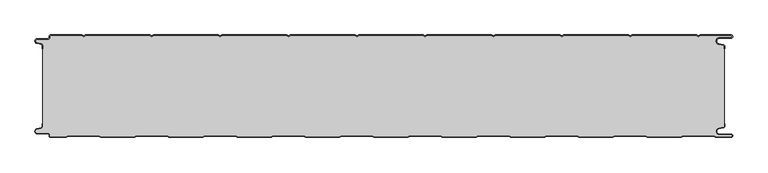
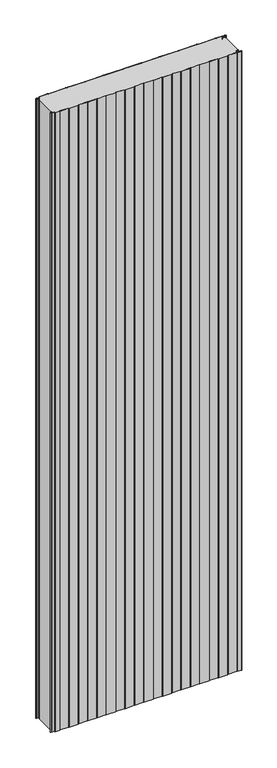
"""IFC4 building model written with IfcOpenShell, lengths in millimetres: plate geometry, PMH_Curtain-PaneL-Standard : ACH_PMH_Stone-wool-Panel_150M."""

import ifcopenshell
import ifcopenshell.guid

model = None  # the IFC model being written
_history = None  # IfcOwnerHistory: only IFC2X3 demands one
_inside = {}  # id of a spatial element -> (the spatial element, [elements in it])
_under = {}  # id of a project, library or spatial element -> (it, [spatial elements below it])
_declared = {}  # id of a project -> (the project, [libraries it declares])
_typed = {}  # id of a type object -> (the type object, [elements of that type])
_made_of = {}  # id of a material, layer set ... -> (it, [elements and type objects made of it])


def new_model(schema):
    """Start an empty IFC model of exactly this schema.

    Asked for "IFC4X3", IfcOpenShell would pick the latest addendum, in which some entities
    have other attributes; the version numbers below select the first issue.
    IFC2X3 requires an IfcOwnerHistory on every rooted entity: one is made here for all.
    """
    global model, _history
    if schema == "IFC4X3":
        model = ifcopenshell.file(schema_version=(4, 3, 0, 0))
    else:
        model = ifcopenshell.file(schema=schema)
    _inside.clear()
    _under.clear()
    _declared.clear()
    _typed.clear()
    _made_of.clear()
    _history = None
    if model.schema == "IFC2X3":
        org = make("IfcOrganization", Name="unknown")
        user = make(
            "IfcPersonAndOrganization",
            ThePerson=make("IfcPerson", FamilyName="unknown"),
            TheOrganization=org,
        )
        app = make(
            "IfcApplication",
            ApplicationDeveloper=org,
            Version="unknown",
            ApplicationFullName="unknown",
            ApplicationIdentifier="unknown",
        )
        _history = make(
            "IfcOwnerHistory",
            OwningUser=user,
            OwningApplication=app,
            ChangeAction="ADDED",
            CreationDate=0,
        )
    return model


def make(cls, **values):
    """One entity of the class cls with the attributes given. An attribute that is None is left unset."""
    return model.create_entity(
        cls, **{name: value for name, value in values.items() if value is not None}
    )


def rooted(cls, **values):
    """An entity with a GlobalId (a new one), such as an element, a storey or a relation."""
    return make(cls, GlobalId=ifcopenshell.guid.new(), OwnerHistory=_history, **values)


def si_unit(unit_type, name, prefix=None):
    """IfcSIUnit, for example si_unit("LENGTHUNIT", "METRE", prefix="MILLI")."""
    return make("IfcSIUnit", UnitType=unit_type, Prefix=prefix, Name=name)


def assignment(units):
    """IfcUnitAssignment: the units of a project."""
    return None if units is None else make("IfcUnitAssignment", Units=units)


def point(xyz):
    """IfcCartesianPoint."""
    return None if xyz is None else make("IfcCartesianPoint", Coordinates=xyz)


def direction(xyz):
    """IfcDirection."""
    return None if xyz is None else make("IfcDirection", DirectionRatios=xyz)


def frame(location, z_axis=None, x_axis=None):
    """IfcAxis2Placement3D, a coordinate frame: its origin and axes. An axis left out is left unset."""
    return make(
        "IfcAxis2Placement3D",
        Location=point(location),
        Axis=direction(z_axis),
        RefDirection=direction(x_axis),
    )


def frame_2d(location, x_axis=None):
    """IfcAxis2Placement2D, a coordinate frame in the plane: its origin and x axis."""
    return make(
        "IfcAxis2Placement2D", Location=point(location), RefDirection=direction(x_axis)
    )


def origin():
    """The frame at (0, 0, 0) with its axes left unset."""
    return frame((0.0, 0.0, 0.0))


def origin_with_axes():
    """The frame at (0, 0, 0) with the z axis (0, 0, 1) and the x axis (1, 0, 0) written out."""
    return frame((0.0, 0.0, 0.0), z_axis=(0.0, 0.0, 1.0), x_axis=(1.0, 0.0, 0.0))


def place(relative_to, where):
    """IfcLocalPlacement: puts the frame where relative to a parent placement (None: the world)."""
    return make(
        "IfcLocalPlacement", PlacementRelTo=relative_to, RelativePlacement=where
    )


def context(
    kind, dimensions, precision=None, world=None, true_north=None, identifier=None
):
    """IfcGeometricRepresentationContext, for example the 3D "Model" context."""
    return make(
        "IfcGeometricRepresentationContext",
        ContextIdentifier=identifier,
        ContextType=kind,
        CoordinateSpaceDimension=dimensions,
        Precision=precision,
        WorldCoordinateSystem=world,
        TrueNorth=true_north,
    )


def project(units=None, contexts=None):
    """IfcProject with its units and contexts."""
    return rooted(
        "IfcProject",
        Name="project",
        RepresentationContexts=contexts,
        UnitsInContext=assignment(units),
    )


def spatial(cls, under=None, at=None, **own):
    """A site, building, storey or space (cls), placed at a placement, below another one or the project."""
    s = rooted(cls, ObjectPlacement=at, **own)
    if under is not None:
        _under.setdefault(under.id(), (under, []))[1].append(s)
    return s


def polyline(points):
    """IfcPolyline through the points."""
    return make("IfcPolyline", Points=[point(p) for p in points])


def circle_curve(where, radius):
    """IfcCircle in the frame where."""
    return make("IfcCircle", Position=where, Radius=radius)


def trimmed(basis, trim1, trim2, sense, master):
    """IfcTrimmedCurve: the piece of a basis curve between two trims."""
    return make(
        "IfcTrimmedCurve",
        BasisCurve=basis,
        Trim1=trim1,
        Trim2=trim2,
        SenseAgreement=sense,
        MasterRepresentation=master,
    )


def segment(curve, same_sense, transition):
    """IfcCompositeCurveSegment."""
    return make(
        "IfcCompositeCurveSegment",
        Transition=transition,
        SameSense=same_sense,
        ParentCurve=curve,
    )


def composite_curve(segments, self_intersect=None):
    """IfcCompositeCurve: segments joined end to end."""
    return make("IfcCompositeCurve", Segments=segments, SelfIntersect=self_intersect)


def outline(outer, holes=None, kind="AREA"):
    """IfcArbitraryClosedProfileDef: a profile drawn as a closed curve; with holes, ...WithVoids."""
    if holes is None:
        return make("IfcArbitraryClosedProfileDef", ProfileType=kind, OuterCurve=outer)
    return make(
        "IfcArbitraryProfileDefWithVoids",
        ProfileType=kind,
        OuterCurve=outer,
        InnerCurves=holes,
    )


def extrude(swept, where, along, depth):
    """IfcExtrudedAreaSolid: the profile swept, set in the frame where, extruded along a direction by depth."""
    return make(
        "IfcExtrudedAreaSolid",
        SweptArea=swept,
        Position=where,
        ExtrudedDirection=direction(along),
        Depth=depth,
    )


def shape(context_of_items, identifier, shape_type, items):
    """IfcShapeRepresentation: the items that make up one representation, for example the "Body"."""
    return make(
        "IfcShapeRepresentation",
        ContextOfItems=context_of_items,
        RepresentationIdentifier=identifier,
        RepresentationType=shape_type,
        Items=items,
    )


def source(mapping_origin, context_of_items, identifier, shape_type, items):
    """IfcRepresentationMap: a shape defined once, which mapped items show again and again."""
    return make(
        "IfcRepresentationMap",
        MappingOrigin=mapping_origin,
        MappedRepresentation=shape(context_of_items, identifier, shape_type, items),
    )


def transform(
    local_origin,
    x_axis=None,
    y_axis=None,
    z_axis=None,
    scale=None,
    scale2=None,
    scale3=None,
    uniform=True,
):
    """IfcCartesianTransformationOperator3D, or its non-uniform kind. x_axis, y_axis, z_axis: its Axis1, 2, 3."""
    if uniform:
        return make(
            "IfcCartesianTransformationOperator3D",
            Axis1=direction(x_axis),
            Axis2=direction(y_axis),
            LocalOrigin=point(local_origin),
            Scale=scale,
            Axis3=direction(z_axis),
        )
    return make(
        "IfcCartesianTransformationOperator3DnonUniform",
        Axis1=direction(x_axis),
        Axis2=direction(y_axis),
        LocalOrigin=point(local_origin),
        Scale=scale,
        Axis3=direction(z_axis),
        Scale2=scale2,
        Scale3=scale3,
    )


def mapped(mapping_source, mapping_target):
    """IfcMappedItem: shows the shape of a source again, moved by a transform."""
    return make(
        "IfcMappedItem", MappingSource=mapping_source, MappingTarget=mapping_target
    )


def made_of(thing, what):
    """Note that an element or type object is made of a material, layer set ...; save() writes the relation."""
    if what is not None:
        _made_of.setdefault(what.id(), (what, []))[1].append(thing)
    return thing


def element(
    cls,
    number,
    at=None,
    inside=None,
    cuts=None,
    type_object=None,
    material=None,
    context=None,
    identifier="Body",
    shape_type=None,
    held_by="IfcProductDefinitionShape",
    body=None,
    shapes=None,
    **own,
):
    """One element of the class cls, such as IfcWall. Its Tag is "e" and its number.

    at: its placement. inside: the storey or other place that contains it. cuts: it is an
    opening in that element (IfcRelVoidsElement). A single representation is given by context,
    identifier, shape_type and body (its items); several are given by shapes. held_by: the class
    of the entity that holds the representations. save() writes the other relations.
    """
    e = rooted(cls, Tag="e%d" % number, ObjectPlacement=at, **own)
    if body is not None:
        shapes = [shape(context, identifier, shape_type, body)]
    if shapes is not None:
        e.Representation = make(held_by, Representations=shapes)
    if inside is not None:
        _inside.setdefault(inside.id(), (inside, []))[1].append(e)
    if cuts is not None:
        rooted(
            "IfcRelVoidsElement", RelatingBuildingElement=cuts, RelatedOpeningElement=e
        )
    if type_object is not None:
        _typed.setdefault(type_object.id(), (type_object, []))[1].append(e)
    return made_of(e, material)


def aggregate(whole, parts):
    """IfcRelAggregates: a whole, such as a stair, and the parts it consists of."""
    return rooted("IfcRelAggregates", RelatingObject=whole, RelatedObjects=parts)


def save(model, path):
    """Write the relations noted so far, then the file.

    IfcRelAggregates (storeys below a building ...), IfcRelContainedInSpatialStructure (elements
    in a storey), IfcRelDefinesByType, IfcRelAssociatesMaterial and IfcRelDeclares: one each for
    every whole, place, type object, material and project.
    """
    for whole, parts in _under.values():
        aggregate(whole, parts)
    for where, things in _inside.values():
        rooted(
            "IfcRelContainedInSpatialStructure",
            RelatedElements=things,
            RelatingStructure=where,
        )
    for kind, things in _typed.values():
        rooted("IfcRelDefinesByType", RelatedObjects=things, RelatingType=kind)
    for what, things in _made_of.values():
        rooted("IfcRelAssociatesMaterial", RelatedObjects=things, RelatingMaterial=what)
    for by, libraries in _declared.values():
        rooted("IfcRelDeclares", RelatingContext=by, RelatedDefinitions=libraries)
    model.write(path)


def plate_48b56e83(model_context):
    return source(origin(), model_context, "Body", "SweptSolid", [
        extrude(outline(composite_curve([segment(trimmed(circle_curve(frame_2d((-502.0, -15.878557)), 2.0), [point((-500.0, -15.878557))], [point((-501.5500978, -13.9298169))], True, "CARTESIAN"), True, "CONTINUOUS"), segment(polyline([(-501.5500978, -13.9298169), (-507.7098239, -12.507732)]), True, "CONTINUOUS"), segment(trimmed(circle_curve(frame_2d((-506.9, -9.0)), 3.6), [point((-507.7098239, -12.507732))], [point((-506.9, -5.4))], False, "CARTESIAN"), True, "CONTINUOUS"), segment(polyline([(-506.9, -5.4), (-491.4, -5.4)]), True, "CONTINUOUS"), segment(trimmed(circle_curve(frame_2d((-491.4, -3.4)), 2.0), [point((-491.4, -5.4))], [point((-489.4, -3.4))], True, "CARTESIAN"), True, "CONTINUOUS"), segment(polyline([(-489.4, -3.4), (-489.4, -2.0)]), True, "CONTINUOUS"), segment(trimmed(circle_curve(frame_2d((-487.4, -2.0)), 2.0), [point((-489.4, -2.0))], [point((-487.4, 0.0))], False, "CARTESIAN"), True, "CONTINUOUS"), segment(polyline([(-487.4, 0.0), (-442.0999995, 0.0), (-439.4, -1.5588455), (-436.7000005, 0.0), (-342.0999995, 0.0), (-339.4, -1.5588455), (-336.7000005, 0.0), (-242.0999995, 0.0), (-239.4, -1.5588455), (-236.7000005, 0.0), (-142.0999995, 0.0), (-139.4, -1.5588455), (-136.7000005, 0.0), (-42.0999995, 0.0), (-39.4, -1.5588455), (-36.7000005, 0.0), (57.9000005, 0.0), (60.6, -1.5588455), (63.2999995, 0.0), (157.9000005, 0.0), (160.6, -1.5588455), (163.2999995, 0.0), (257.9000005, 0.0), (260.6, -1.5588455), (263.2999995, 0.0), (357.9000005, 0.0), (360.6, -1.5588455), (363.2999995, 0.0), (457.9000005, 0.0), (460.6, -1.5588455), (463.2999995, 0.0), (508.1, 0.0)]), True, "CONTINUOUS"), segment(trimmed(circle_curve(frame_2d((508.1, -2.5)), 2.5), [point((508.1, 0.0))], [point((508.1, -5.0))], False, "CARTESIAN"), True, "CONTINUOUS"), segment(polyline([(508.1, -5.0), (491.1, -5.0)]), True, "CONTINUOUS"), segment(trimmed(circle_curve(frame_2d((491.1, -9.0)), 4.0), [point((491.1, -5.0))], [point((490.405407, -12.939231))], True, "CARTESIAN"), True, "CONTINUOUS"), segment(polyline([(490.405407, -12.939231), (496.8514855, -14.0758491)]), True, "CONTINUOUS"), segment(trimmed(circle_curve(frame_2d((496.4, -16.6363492)), 2.6), [point((496.8514855, -14.0758491))], [point((499.0, -16.6363492))], False, "CARTESIAN"), True, "CONTINUOUS"), segment(polyline([(499.0, -16.6363492), (499.0, -20.0), (498.2, -20.0), (498.2, -16.6363492)]), True, "CONTINUOUS"), segment(trimmed(circle_curve(frame_2d((496.4, -16.6363492)), 1.8), [point((498.2, -16.6363492))], [point((496.7125669, -14.8636953))], True, "CARTESIAN"), True, "CONTINUOUS"), segment(polyline([(496.7125669, -14.8636953), (490.2664884, -13.7270772)]), True, "CONTINUOUS"), segment(trimmed(circle_curve(frame_2d((491.1, -9.0)), 4.8), [point((490.2664884, -13.7270772))], [point((491.1, -4.2))], False, "CARTESIAN"), True, "CONTINUOUS"), segment(polyline([(491.1, -4.2), (508.1, -4.2)]), True, "CONTINUOUS"), segment(trimmed(circle_curve(frame_2d((508.1, -2.5)), 1.7), [point((508.1, -4.2))], [point((508.1, -0.8))], True, "CARTESIAN"), True, "CONTINUOUS"), segment(polyline([(508.1, -0.8), (463.5143588, -0.8), (460.6, -2.482606), (457.6856412, -0.8), (363.5143588, -0.8), (360.6, -2.482606), (357.6856412, -0.8), (263.5143588, -0.8), (260.6, -2.482606), (257.6856412, -0.8), (163.5143588, -0.8), (160.6, -2.482606), (157.6856412, -0.8), (63.5143588, -0.8), (60.6, -2.482606), (57.6856412, -0.8), (-36.4856412, -0.8), (-39.4, -2.482606), (-42.3143588, -0.8), (-136.4856412, -0.8), (-139.4, -2.482606), (-142.3143588, -0.8), (-236.4856412, -0.8), (-239.4, -2.482606), (-242.3143588, -0.8), (-336.4856412, -0.8), (-339.4, -2.482606), (-342.3143588, -0.8), (-436.4856412, -0.8), (-439.4, -2.482606), (-442.3143588, -0.8), (-487.4, -0.8)]), True, "CONTINUOUS"), segment(trimmed(circle_curve(frame_2d((-487.4, -2.0)), 1.2), [point((-487.4, -0.8))], [point((-488.6, -2.0))], True, "CARTESIAN"), True, "CONTINUOUS"), segment(polyline([(-488.6, -2.0), (-488.6, -3.4)]), True, "CONTINUOUS"), segment(trimmed(circle_curve(frame_2d((-491.4, -3.4)), 2.8), [point((-488.6, -3.4))], [point((-491.4, -6.2))], False, "CARTESIAN"), True, "CONTINUOUS"), segment(polyline([(-491.4, -6.2), (-506.9, -6.2)]), True, "CONTINUOUS"), segment(trimmed(circle_curve(frame_2d((-506.9, -9.0)), 2.8), [point((-506.9, -6.2))], [point((-507.529863, -11.7282362))], True, "CARTESIAN"), True, "CONTINUOUS"), segment(polyline([(-507.529863, -11.7282362), (-501.370137, -13.150321)]), True, "CONTINUOUS"), segment(trimmed(circle_curve(frame_2d((-502.0, -15.878557)), 2.8), [point((-501.370137, -13.150321))], [point((-499.2, -15.878557))], False, "CARTESIAN"), True, "CONTINUOUS"), segment(polyline([(-499.2, -15.878557), (-499.2, -20.0), (-500.0, -20.0), (-500.0, -15.878557)]), True, "CONTINUOUS")], self_intersect=False)), origin_with_axes(), (0.0, 0.0, 1.0), 3500.0),
        extrude(outline(composite_curve([segment(polyline([(-499.2, -134.121443), (-499.2, -15.8785573)]), True, "CONTINUOUS"), segment(trimmed(circle_curve(frame_2d((-502.0, -15.8785573)), 2.8), [point((-499.2, -15.8785573))], [point((-501.370137, -13.1503212))], True, "CARTESIAN"), True, "CONTINUOUS"), segment(polyline([(-501.370137, -13.1503212), (-507.5298631, -11.7282362)]), True, "CONTINUOUS"), segment(trimmed(circle_curve(frame_2d((-506.9, -9.0)), 2.8), [point((-507.5298631, -11.7282362))], [point((-506.9, -6.2))], False, "CARTESIAN"), True, "CONTINUOUS"), segment(polyline([(-506.9, -6.2), (-491.4000001, -6.2)]), True, "CONTINUOUS"), segment(trimmed(circle_curve(frame_2d((-491.4000001, -3.4)), 2.8), [point((-491.4000001, -6.2))], [point((-488.6000001, -3.4))], True, "CARTESIAN"), True, "CONTINUOUS"), segment(polyline([(-488.6000001, -3.4), (-488.6000001, -2.0)]), True, "CONTINUOUS"), segment(trimmed(circle_curve(frame_2d((-487.4000001, -2.0)), 1.2), [point((-488.6000001, -2.0))], [point((-487.4000001, -0.8))], False, "CARTESIAN"), True, "CONTINUOUS"), segment(polyline([(-487.4000001, -0.8), (-442.3143589, -0.8), (-439.4000001, -2.482606), (-436.4856412, -0.8), (-342.3143589, -0.8), (-339.4000001, -2.482606), (-336.4856412, -0.8), (-242.3143589, -0.8), (-239.4000001, -2.482606), (-236.4856412, -0.8), (-142.3143589, -0.8), (-139.4000001, -2.482606), (-136.4856412, -0.8), (-42.3143589, -0.8), (-39.4000001, -2.482606), (-36.4856412, -0.8), (57.6856411, -0.8), (60.5999999, -2.482606), (63.5143588, -0.8), (157.6856411, -0.8), (160.5999999, -2.482606), (163.5143588, -0.8), (257.6856411, -0.8), (260.5999999, -2.482606), (263.5143588, -0.8), (357.6856411, -0.8), (360.5999999, -2.482606), (363.5143588, -0.8), (457.6856411, -0.8), (460.5999999, -2.482606), (463.5143587, -0.8), (508.1, -0.8)]), True, "CONTINUOUS"), segment(trimmed(circle_curve(frame_2d((508.1, -2.5)), 1.7), [point((508.1, -0.8))], [point((508.1, -4.2))], False, "CARTESIAN"), True, "CONTINUOUS"), segment(polyline([(508.1, -4.2), (491.1, -4.2)]), True, "CONTINUOUS"), segment(trimmed(circle_curve(frame_2d((491.1, -9.0)), 4.8), [point((491.1, -4.2))], [point((490.2664883, -13.7270771))], True, "CARTESIAN"), True, "CONTINUOUS"), segment(polyline([(490.2664883, -13.7270771), (496.7125668, -14.8636953)]), True, "CONTINUOUS"), segment(trimmed(circle_curve(frame_2d((496.4, -16.6363492)), 1.8), [point((496.7125668, -14.8636953))], [point((498.2, -16.6363492))], False, "CARTESIAN"), True, "CONTINUOUS"), segment(polyline([(498.2, -16.6363492), (498.2, -133.363652)]), True, "CONTINUOUS"), segment(trimmed(circle_curve(frame_2d((496.4, -133.363652)), 1.8), [point((498.2, -133.363652))], [point((496.7125666, -135.1363059))], False, "CARTESIAN"), True, "CONTINUOUS"), segment(polyline([(496.7125666, -135.1363059), (490.266489, -136.272923)]), True, "CONTINUOUS"), segment(trimmed(circle_curve(frame_2d((491.1, -141.0000002)), 4.7999999), [point((490.266489, -136.272923))], [point((491.1, -145.8000001))], True, "CARTESIAN"), True, "CONTINUOUS"), segment(polyline([(491.1, -145.8000001), (508.1, -145.8000001)]), True, "CONTINUOUS"), segment(trimmed(circle_curve(frame_2d((508.1, -147.5)), 1.7), [point((508.1, -145.8000001))], [point((508.1, -149.2))], False, "CARTESIAN"), True, "CONTINUOUS"), segment(polyline([(508.1, -149.2), (485.8105122, -149.2), (483.2124346, -147.7), (437.9837184, -147.7), (435.3856408, -149.2), (385.8105122, -149.2), (383.2124346, -147.7), (337.9837184, -147.7), (335.3856408, -149.2), (285.8105122, -149.2), (283.2124346, -147.7), (237.9837184, -147.7), (235.3856408, -149.2), (185.8105122, -149.2), (183.2124346, -147.7), (137.9837184, -147.7), (135.3856408, -149.2), (85.8105122, -149.2), (83.2124346, -147.7), (37.9837184, -147.7), (35.3856408, -149.2), (-14.1894878, -149.2), (-16.7875654, -147.7), (-62.0162816, -147.7), (-64.6143592, -149.2), (-114.1894878, -149.2), (-116.7875654, -147.7), (-162.0162816, -147.7), (-164.6143592, -149.2), (-214.1894878, -149.2), (-216.7875654, -147.7), (-262.0162816, -147.7), (-264.6143592, -149.2), (-314.1894878, -149.2), (-316.7875654, -147.7), (-362.0162816, -147.7), (-364.6143592, -149.2), (-414.1894878, -149.2), (-416.7875654, -147.7), (-462.0162816, -147.7), (-464.6143592, -149.2), (-487.4, -149.2)]), True, "CONTINUOUS"), segment(trimmed(circle_curve(frame_2d((-487.4, -148.0)), 1.2), [point((-487.4, -149.2))], [point((-488.6, -148.0))], False, "CARTESIAN"), True, "CONTINUOUS"), segment(polyline([(-488.6, -148.0), (-488.6, -146.5999998)]), True, "CONTINUOUS"), segment(trimmed(circle_curve(frame_2d((-491.4, -146.5999998)), 2.8), [point((-488.6, -146.5999998))], [point((-491.4, -143.7999998))], True, "CARTESIAN"), True, "CONTINUOUS"), segment(polyline([(-491.4, -143.7999998), (-506.9, -143.7999998)]), True, "CONTINUOUS"), segment(trimmed(circle_curve(frame_2d((-506.9, -141.0)), 2.7999998), [point((-506.9, -143.7999998))], [point((-507.529863, -138.271764))], False, "CARTESIAN"), True, "CONTINUOUS"), segment(polyline([(-507.529863, -138.271764), (-501.370137, -136.8496792)]), True, "CONTINUOUS"), segment(trimmed(circle_curve(frame_2d((-502.0, -134.121443)), 2.8), [point((-501.370137, -136.8496792))], [point((-499.2, -134.121443))], True, "CARTESIAN"), True, "CONTINUOUS")], self_intersect=False)), origin_with_axes(), (0.0, 0.0, 1.0), 3500.0),
        extrude(outline(composite_curve([segment(trimmed(circle_curve(frame_2d((-487.4, -148.0)), 2.0), [point((-487.4, -150.0))], [point((-489.4, -148.0))], False, "CARTESIAN"), True, "CONTINUOUS"), segment(polyline([(-489.4, -148.0), (-489.4, -146.6)]), True, "CONTINUOUS"), segment(trimmed(circle_curve(frame_2d((-491.4, -146.6)), 2.0), [point((-489.4, -146.6))], [point((-491.4, -144.6))], True, "CARTESIAN"), True, "CONTINUOUS"), segment(polyline([(-491.4, -144.6), (-506.9, -144.6)]), True, "CONTINUOUS"), segment(trimmed(circle_curve(frame_2d((-506.9, -141.0)), 3.6), [point((-506.9, -144.6))], [point((-507.7098239, -137.4922678))], False, "CARTESIAN"), True, "CONTINUOUS"), segment(polyline([(-507.7098239, -137.4922678), (-501.5500979, -136.070183)]), True, "CONTINUOUS"), segment(trimmed(circle_curve(frame_2d((-502.0, -134.121443)), 2.0), [point((-501.5500979, -136.070183))], [point((-500.0, -134.121443))], True, "CARTESIAN"), True, "CONTINUOUS"), segment(polyline([(-500.0, -134.121443), (-500.0, -130.0), (-499.2, -130.0), (-499.2, -134.121443)]), True, "CONTINUOUS"), segment(trimmed(circle_curve(frame_2d((-502.0, -134.121443)), 2.8), [point((-499.2, -134.121443))], [point((-501.370137, -136.8496792))], False, "CARTESIAN"), True, "CONTINUOUS"), segment(polyline([(-501.370137, -136.8496792), (-507.529863, -138.271764)]), True, "CONTINUOUS"), segment(trimmed(circle_curve(frame_2d((-506.9, -141.0)), 2.8), [point((-507.529863, -138.271764))], [point((-506.9, -143.8))], True, "CARTESIAN"), True, "CONTINUOUS"), segment(polyline([(-506.9, -143.8), (-491.4, -143.8)]), True, "CONTINUOUS"), segment(trimmed(circle_curve(frame_2d((-491.4, -146.6)), 2.8), [point((-491.4, -143.8))], [point((-488.6, -146.6))], False, "CARTESIAN"), True, "CONTINUOUS"), segment(polyline([(-488.6, -146.6), (-488.6, -148.0)]), True, "CONTINUOUS"), segment(trimmed(circle_curve(frame_2d((-487.4, -148.0)), 1.2), [point((-488.6, -148.0))], [point((-487.4, -149.2))], True, "CARTESIAN"), True, "CONTINUOUS"), segment(polyline([(-487.4, -149.2), (-464.6143592, -149.2), (-462.0162816, -147.7), (-416.7875654, -147.7), (-414.1894878, -149.2), (-364.6143592, -149.2), (-362.0162816, -147.7), (-316.7875654, -147.7), (-314.1894878, -149.2), (-264.6143592, -149.2), (-262.0162816, -147.7), (-216.7875654, -147.7), (-214.1894878, -149.2), (-164.6143592, -149.2), (-162.0162816, -147.7), (-116.7875654, -147.7), (-114.1894878, -149.2), (-64.6143592, -149.2), (-62.0162816, -147.7), (-16.7875654, -147.7), (-14.1894878, -149.2), (35.3856408, -149.2), (37.9837184, -147.7), (83.2124346, -147.7), (85.8105122, -149.2), (135.3856408, -149.2), (137.9837184, -147.7), (183.2124346, -147.7), (185.8105122, -149.2), (235.3856408, -149.2), (237.9837184, -147.7), (283.2124346, -147.7), (285.8105122, -149.2), (335.3856408, -149.2), (337.9837184, -147.7), (383.2124346, -147.7), (385.8105122, -149.2), (435.3856408, -149.2), (437.9837184, -147.7), (483.2124346, -147.7), (485.8105122, -149.2), (508.1, -149.2)]), True, "CONTINUOUS"), segment(trimmed(circle_curve(frame_2d((508.1, -147.5)), 1.7), [point((508.1, -149.2))], [point((508.1, -145.8))], True, "CARTESIAN"), True, "CONTINUOUS"), segment(polyline([(508.1, -145.8), (491.1, -145.8)]), True, "CONTINUOUS"), segment(trimmed(circle_curve(frame_2d((491.1, -141.0)), 4.8), [point((491.1, -145.8))], [point((490.266489, -136.2729227))], False, "CARTESIAN"), True, "CONTINUOUS"), segment(polyline([(490.266489, -136.2729227), (496.7125666, -135.1363058)]), True, "CONTINUOUS"), segment(trimmed(circle_curve(frame_2d((496.4, -133.363652)), 1.8), [point((496.7125666, -135.1363058))], [point((498.2, -133.363652))], True, "CARTESIAN"), True, "CONTINUOUS"), segment(polyline([(498.2, -133.363652), (498.2, -130.0), (499.0, -130.0), (499.0, -133.363652)]), True, "CONTINUOUS"), segment(trimmed(circle_curve(frame_2d((496.4, -133.363652)), 2.6), [point((499.0, -133.363652))], [point((496.8514851, -135.9241522))], False, "CARTESIAN"), True, "CONTINUOUS"), segment(polyline([(496.8514851, -135.9241522), (490.4054075, -137.0607691)]), True, "CONTINUOUS"), segment(trimmed(circle_curve(frame_2d((491.1, -141.0)), 4.0), [point((490.4054075, -137.0607691))], [point((491.1, -145.0))], True, "CARTESIAN"), True, "CONTINUOUS"), segment(polyline([(491.1, -145.0), (508.1, -145.0)]), True, "CONTINUOUS"), segment(trimmed(circle_curve(frame_2d((508.1, -147.5)), 2.5), [point((508.1, -145.0))], [point((508.1, -150.0))], False, "CARTESIAN"), True, "CONTINUOUS"), segment(polyline([(508.1, -150.0), (485.5961529, -150.0), (482.9980753, -148.5), (438.1980777, -148.5), (435.6000001, -150.0), (385.5961529, -150.0), (382.9980753, -148.5), (338.1980777, -148.5), (335.6000001, -150.0), (285.5961529, -150.0), (282.9980753, -148.5), (238.1980777, -148.5), (235.6000001, -150.0), (185.5961529, -150.0), (182.9980753, -148.5), (138.1980777, -148.5), (135.6000001, -150.0), (85.5961529, -150.0), (82.9980753, -148.5), (38.1980777, -148.5), (35.6000001, -150.0), (-14.4038471, -150.0), (-17.0019247, -148.5), (-61.8019223, -148.5), (-64.3999999, -150.0), (-114.4038471, -150.0), (-117.0019247, -148.5), (-161.8019223, -148.5), (-164.3999999, -150.0), (-214.4038471, -150.0), (-217.0019247, -148.5), (-261.8019223, -148.5), (-264.3999999, -150.0), (-314.4038471, -150.0), (-317.0019247, -148.5), (-361.8019223, -148.5), (-364.3999999, -150.0), (-414.4038471, -150.0), (-417.0019247, -148.5), (-461.8019223, -148.5), (-464.3999999, -150.0), (-487.4, -150.0)]), True, "CONTINUOUS")], self_intersect=False)), origin_with_axes(), (0.0, 0.0, 1.0), 3500.0),
    ])


if __name__ == "__main__":
    model = new_model("IFC4")
    model_context = context("Model", 3, world=origin())
    ifc_project = project(units=[si_unit("LENGTHUNIT", "METRE", prefix="MILLI")], contexts=[model_context])
    site = spatial("IfcSite", under=ifc_project)
    building = spatial("IfcBuilding", under=site)
    placement = place(None, origin())
    plate_shape = plate_48b56e83(model_context)
    element("IfcPlate", 1, ObjectType="PMH_Curtain-PaneL-Standard : ACH_PMH_Stone-wool-Panel_150M", at=placement, inside=building, context=model_context, shape_type="MappedRepresentation", body=[
        mapped(plate_shape, transform((0.0, 0.0, 0.0), x_axis=(1.0, 0.0, 0.0), y_axis=(0.0, 1.0, 0.0), z_axis=(0.0, 0.0, 1.0))),
    ])
    save(model, "model.ifc")
